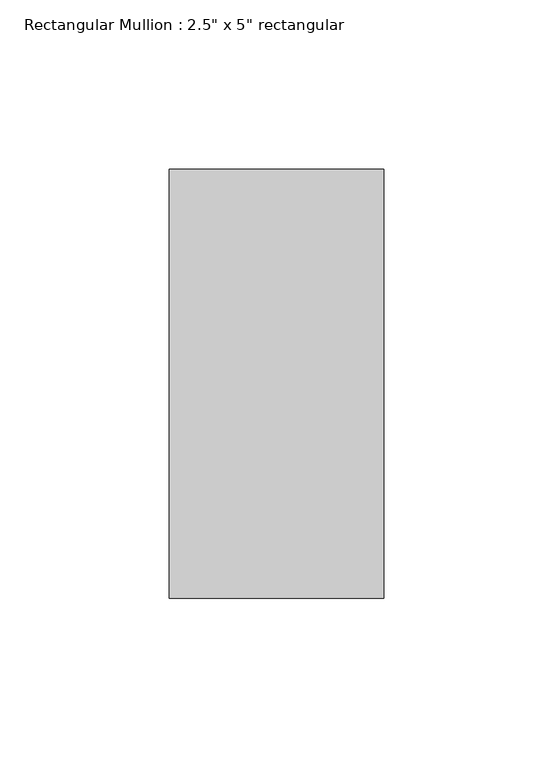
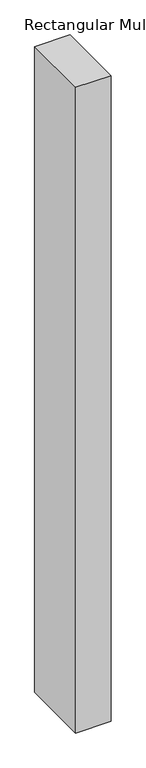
"""IFC4 building model written with IfcOpenShell, lengths in millimetres: member geometry."""

import ifcopenshell
import ifcopenshell.guid

model = None  # the IFC model being written
_history = None  # IfcOwnerHistory: only IFC2X3 demands one
_inside = {}  # id of a spatial element -> (the spatial element, [elements in it])
_under = {}  # id of a project, library or spatial element -> (it, [spatial elements below it])
_declared = {}  # id of a project -> (the project, [libraries it declares])
_typed = {}  # id of a type object -> (the type object, [elements of that type])
_made_of = {}  # id of a material, layer set ... -> (it, [elements and type objects made of it])


def new_model(schema):
    """Start an empty IFC model of exactly this schema.

    Asked for "IFC4X3", IfcOpenShell would pick the latest addendum, in which some entities
    have other attributes; the version numbers below select the first issue.
    IFC2X3 requires an IfcOwnerHistory on every rooted entity: one is made here for all.
    """
    global model, _history
    if schema == "IFC4X3":
        model = ifcopenshell.file(schema_version=(4, 3, 0, 0))
    else:
        model = ifcopenshell.file(schema=schema)
    _inside.clear()
    _under.clear()
    _declared.clear()
    _typed.clear()
    _made_of.clear()
    _history = None
    if model.schema == "IFC2X3":
        org = make("IfcOrganization", Name="unknown")
        user = make(
            "IfcPersonAndOrganization",
            ThePerson=make("IfcPerson", FamilyName="unknown"),
            TheOrganization=org,
        )
        app = make(
            "IfcApplication",
            ApplicationDeveloper=org,
            Version="unknown",
            ApplicationFullName="unknown",
            ApplicationIdentifier="unknown",
        )
        _history = make(
            "IfcOwnerHistory",
            OwningUser=user,
            OwningApplication=app,
            ChangeAction="ADDED",
            CreationDate=0,
        )
    return model


def make(cls, **values):
    """One entity of the class cls with the attributes given. An attribute that is None is left unset."""
    return model.create_entity(
        cls, **{name: value for name, value in values.items() if value is not None}
    )


def rooted(cls, **values):
    """An entity with a GlobalId (a new one), such as an element, a storey or a relation."""
    return make(cls, GlobalId=ifcopenshell.guid.new(), OwnerHistory=_history, **values)


def si_unit(unit_type, name, prefix=None):
    """IfcSIUnit, for example si_unit("LENGTHUNIT", "METRE", prefix="MILLI")."""
    return make("IfcSIUnit", UnitType=unit_type, Prefix=prefix, Name=name)


def assignment(units):
    """IfcUnitAssignment: the units of a project."""
    return None if units is None else make("IfcUnitAssignment", Units=units)


def point(xyz):
    """IfcCartesianPoint."""
    return None if xyz is None else make("IfcCartesianPoint", Coordinates=xyz)


def direction(xyz):
    """IfcDirection."""
    return None if xyz is None else make("IfcDirection", DirectionRatios=xyz)


def frame(location, z_axis=None, x_axis=None):
    """IfcAxis2Placement3D, a coordinate frame: its origin and axes. An axis left out is left unset."""
    return make(
        "IfcAxis2Placement3D",
        Location=point(location),
        Axis=direction(z_axis),
        RefDirection=direction(x_axis),
    )


def origin():
    """The frame at (0, 0, 0) with its axes left unset."""
    return frame((0.0, 0.0, 0.0))


def place(relative_to, where):
    """IfcLocalPlacement: puts the frame where relative to a parent placement (None: the world)."""
    return make(
        "IfcLocalPlacement", PlacementRelTo=relative_to, RelativePlacement=where
    )


def context(
    kind, dimensions, precision=None, world=None, true_north=None, identifier=None
):
    """IfcGeometricRepresentationContext, for example the 3D "Model" context."""
    return make(
        "IfcGeometricRepresentationContext",
        ContextIdentifier=identifier,
        ContextType=kind,
        CoordinateSpaceDimension=dimensions,
        Precision=precision,
        WorldCoordinateSystem=world,
        TrueNorth=true_north,
    )


def project(units=None, contexts=None):
    """IfcProject with its units and contexts."""
    return rooted(
        "IfcProject",
        Name="project",
        RepresentationContexts=contexts,
        UnitsInContext=assignment(units),
    )


def spatial(cls, under=None, at=None, **own):
    """A site, building, storey or space (cls), placed at a placement, below another one or the project."""
    s = rooted(cls, ObjectPlacement=at, **own)
    if under is not None:
        _under.setdefault(under.id(), (under, []))[1].append(s)
    return s


def polyline(points):
    """IfcPolyline through the points."""
    return make("IfcPolyline", Points=[point(p) for p in points])


def outline(outer, holes=None, kind="AREA"):
    """IfcArbitraryClosedProfileDef: a profile drawn as a closed curve; with holes, ...WithVoids."""
    if holes is None:
        return make("IfcArbitraryClosedProfileDef", ProfileType=kind, OuterCurve=outer)
    return make(
        "IfcArbitraryProfileDefWithVoids",
        ProfileType=kind,
        OuterCurve=outer,
        InnerCurves=holes,
    )


def extrude(swept, where, along, depth):
    """IfcExtrudedAreaSolid: the profile swept, set in the frame where, extruded along a direction by depth."""
    return make(
        "IfcExtrudedAreaSolid",
        SweptArea=swept,
        Position=where,
        ExtrudedDirection=direction(along),
        Depth=depth,
    )


def shape(context_of_items, identifier, shape_type, items):
    """IfcShapeRepresentation: the items that make up one representation, for example the "Body"."""
    return make(
        "IfcShapeRepresentation",
        ContextOfItems=context_of_items,
        RepresentationIdentifier=identifier,
        RepresentationType=shape_type,
        Items=items,
    )


def source(mapping_origin, context_of_items, identifier, shape_type, items):
    """IfcRepresentationMap: a shape defined once, which mapped items show again and again."""
    return make(
        "IfcRepresentationMap",
        MappingOrigin=mapping_origin,
        MappedRepresentation=shape(context_of_items, identifier, shape_type, items),
    )


def transform(
    local_origin,
    x_axis=None,
    y_axis=None,
    z_axis=None,
    scale=None,
    scale2=None,
    scale3=None,
    uniform=True,
):
    """IfcCartesianTransformationOperator3D, or its non-uniform kind. x_axis, y_axis, z_axis: its Axis1, 2, 3."""
    if uniform:
        return make(
            "IfcCartesianTransformationOperator3D",
            Axis1=direction(x_axis),
            Axis2=direction(y_axis),
            LocalOrigin=point(local_origin),
            Scale=scale,
            Axis3=direction(z_axis),
        )
    return make(
        "IfcCartesianTransformationOperator3DnonUniform",
        Axis1=direction(x_axis),
        Axis2=direction(y_axis),
        LocalOrigin=point(local_origin),
        Scale=scale,
        Axis3=direction(z_axis),
        Scale2=scale2,
        Scale3=scale3,
    )


def mapped(mapping_source, mapping_target):
    """IfcMappedItem: shows the shape of a source again, moved by a transform."""
    return make(
        "IfcMappedItem", MappingSource=mapping_source, MappingTarget=mapping_target
    )


def made_of(thing, what):
    """Note that an element or type object is made of a material, layer set ...; save() writes the relation."""
    if what is not None:
        _made_of.setdefault(what.id(), (what, []))[1].append(thing)
    return thing


def element(
    cls,
    number,
    at=None,
    inside=None,
    cuts=None,
    type_object=None,
    material=None,
    context=None,
    identifier="Body",
    shape_type=None,
    held_by="IfcProductDefinitionShape",
    body=None,
    shapes=None,
    **own,
):
    """One element of the class cls, such as IfcWall. Its Tag is "e" and its number.

    at: its placement. inside: the storey or other place that contains it. cuts: it is an
    opening in that element (IfcRelVoidsElement). A single representation is given by context,
    identifier, shape_type and body (its items); several are given by shapes. held_by: the class
    of the entity that holds the representations. save() writes the other relations.
    """
    e = rooted(cls, Tag="e%d" % number, ObjectPlacement=at, **own)
    if body is not None:
        shapes = [shape(context, identifier, shape_type, body)]
    if shapes is not None:
        e.Representation = make(held_by, Representations=shapes)
    if inside is not None:
        _inside.setdefault(inside.id(), (inside, []))[1].append(e)
    if cuts is not None:
        rooted(
            "IfcRelVoidsElement", RelatingBuildingElement=cuts, RelatedOpeningElement=e
        )
    if type_object is not None:
        _typed.setdefault(type_object.id(), (type_object, []))[1].append(e)
    return made_of(e, material)


def aggregate(whole, parts):
    """IfcRelAggregates: a whole, such as a stair, and the parts it consists of."""
    return rooted("IfcRelAggregates", RelatingObject=whole, RelatedObjects=parts)


def save(model, path):
    """Write the relations noted so far, then the file.

    IfcRelAggregates (storeys below a building ...), IfcRelContainedInSpatialStructure (elements
    in a storey), IfcRelDefinesByType, IfcRelAssociatesMaterial and IfcRelDeclares: one each for
    every whole, place, type object, material and project.
    """
    for whole, parts in _under.values():
        aggregate(whole, parts)
    for where, things in _inside.values():
        rooted(
            "IfcRelContainedInSpatialStructure",
            RelatedElements=things,
            RelatingStructure=where,
        )
    for kind, things in _typed.values():
        rooted("IfcRelDefinesByType", RelatedObjects=things, RelatingType=kind)
    for what, things in _made_of.values():
        rooted("IfcRelAssociatesMaterial", RelatedObjects=things, RelatingMaterial=what)
    for by, libraries in _declared.values():
        rooted("IfcRelDeclares", RelatingContext=by, RelatedDefinitions=libraries)
    model.write(path)


def member_28f0a790(model_context):
    return source(origin(), model_context, "Body", "SweptSolid", [
        extrude(outline(polyline([(0.0, 63.5), (0.0, -63.5), (-63.5, -63.5), (-63.5, 63.5), (0.0, 63.5)])), frame((0.0, 0.0, -1220.5651287), z_axis=(0.0, 0.0, 1.0), x_axis=(1.0, 0.0, 0.0)), (0.0, 0.0, 1.0), 1220.5651287),
    ])


if __name__ == "__main__":
    model = new_model("IFC4")
    model_context = context("Model", 3, world=origin())
    ifc_project = project(units=[si_unit("LENGTHUNIT", "METRE", prefix="MILLI")], contexts=[model_context])
    site = spatial("IfcSite", under=ifc_project)
    building = spatial("IfcBuilding", under=site)
    placement = place(None, origin())
    member_shape = member_28f0a790(model_context)
    element("IfcMember", 1, ObjectType="Rectangular Mullion : 2.5\" x 5\" rectangular", at=placement, inside=building, context=model_context, shape_type="MappedRepresentation", body=[
        mapped(member_shape, transform((0.0, 0.0, 0.0), x_axis=(1.0, 0.0, 0.0), y_axis=(0.0, 1.0, 0.0), z_axis=(0.0, 0.0, 1.0))),
    ])
    save(model, "model.ifc")
